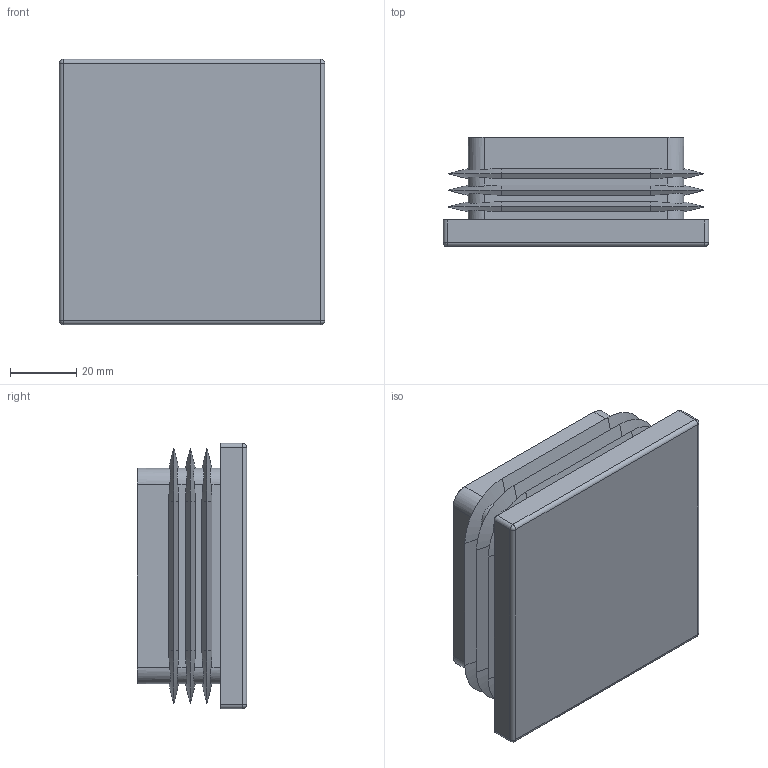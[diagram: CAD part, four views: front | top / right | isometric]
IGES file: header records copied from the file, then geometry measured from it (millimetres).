
Start section: SolidWorks IGES file using analytic representation for surfaces
Global section: file name: C:\HEMSIDA\cad\SLDPRT_2015\ifr\\ifr_80.igs; native system: SolidWorks 2015; preprocessor: SolidWorks 2015; author: Magnus; date: 150818.111808; units: millimetre
Bounding box: 80 x 33 x 80 mm (x, y, z)
Surface area: 34582.8 mm2 (no closed solid volume)
Topology: 0 solids, 0 shells, 108 faces, 1032 edges, 1028 vertices
Faces by surface type: revolution 56, bspline 52
